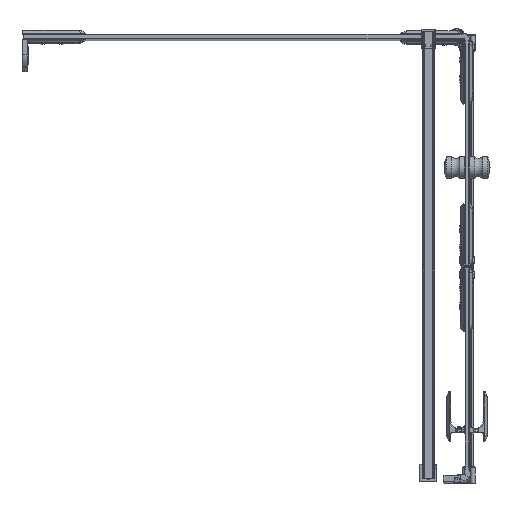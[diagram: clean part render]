
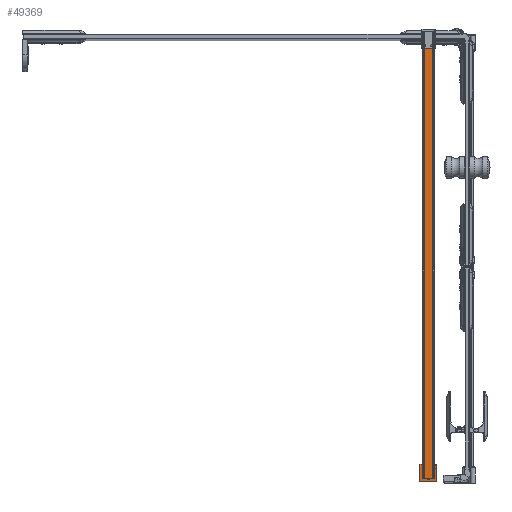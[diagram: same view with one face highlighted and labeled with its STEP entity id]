
A CAD part, top view. The second image highlights one B-rep face of the part: STEP entity #49369.
In plain terms, the highlighted planar face has unit normal (0, 0, 1).
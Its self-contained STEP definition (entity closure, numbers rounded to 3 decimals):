
#4265=LINE($,#111567,#8347);
#4997=LINE($,#113799,#9079);
#4998=LINE($,#113805,#9080);
#5002=LINE($,#113831,#9084);
#5010=LINE($,#113846,#9092);
#5011=LINE($,#113849,#9093);
#5012=LINE($,#113851,#9094);
#5016=LINE($,#113856,#9098);
#5017=LINE($,#113858,#9099);
#5018=LINE($,#113860,#9100);
#5027=LINE($,#113878,#9109);
#5028=LINE($,#113879,#9110);
#8347=VECTOR($,#64615,14.);
#9079=VECTOR($,#66539,3.25);
#9080=VECTOR($,#66544,3.25);
#9084=VECTOR($,#66572,30.);
#9092=VECTOR($,#66584,30.);
#9093=VECTOR($,#66587,4.75);
#9094=VECTOR($,#66588,4.75);
#9098=VECTOR($,#66594,30.);
#9099=VECTOR($,#66597,25.);
#9100=VECTOR($,#66600,25.);
#9109=VECTOR($,#66627,780.);
#9110=VECTOR($,#66628,780.);
#10901=PLANE($,#53800);
#13948=FACE_OUTER_BOUND($,#16992,.T.);
#16992=EDGE_LOOP($,(#43163,#43164,#43165,#43166,#43167,#43168,#43169,#43170,
#43171,#43172,#43173,#43174));
#22672=VERTEX_POINT($,#111565);
#22673=VERTEX_POINT($,#111566);
#23198=VERTEX_POINT($,#113791);
#23201=VERTEX_POINT($,#113797);
#23203=VERTEX_POINT($,#113802);
#23204=VERTEX_POINT($,#113804);
#23212=VERTEX_POINT($,#113827);
#23214=VERTEX_POINT($,#113830);
#23218=VERTEX_POINT($,#113842);
#23219=VERTEX_POINT($,#113844);
#23220=VERTEX_POINT($,#113848);
#23221=VERTEX_POINT($,#113850);
#28923=EDGE_CURVE($,#22672,#22673,#4265,.T.);
#29859=EDGE_CURVE($,#23198,#23201,#4997,.T.);
#29861=EDGE_CURVE($,#23204,#23203,#4998,.T.);
#29872=EDGE_CURVE($,#23214,#23212,#5002,.T.);
#29880=EDGE_CURVE($,#23219,#23218,#5010,.T.);
#29881=EDGE_CURVE($,#23219,#23220,#5011,.T.);
#29882=EDGE_CURVE($,#23221,#23214,#5012,.T.);
#29886=EDGE_CURVE($,#23218,#23212,#5016,.T.);
#29887=EDGE_CURVE($,#23204,#23220,#5017,.T.);
#29888=EDGE_CURVE($,#23201,#23221,#5018,.T.);
#29897=EDGE_CURVE($,#22672,#23198,#5027,.T.);
#29898=EDGE_CURVE($,#23203,#22673,#5028,.T.);
#43163=ORIENTED_EDGE($,*,*,#29897,.T.);
#43164=ORIENTED_EDGE($,*,*,#29859,.T.);
#43165=ORIENTED_EDGE($,*,*,#29888,.T.);
#43166=ORIENTED_EDGE($,*,*,#29882,.T.);
#43167=ORIENTED_EDGE($,*,*,#29872,.T.);
#43168=ORIENTED_EDGE($,*,*,#29886,.F.);
#43169=ORIENTED_EDGE($,*,*,#29880,.F.);
#43170=ORIENTED_EDGE($,*,*,#29881,.T.);
#43171=ORIENTED_EDGE($,*,*,#29887,.F.);
#43172=ORIENTED_EDGE($,*,*,#29861,.T.);
#43173=ORIENTED_EDGE($,*,*,#29898,.T.);
#43174=ORIENTED_EDGE($,*,*,#28923,.F.);
#49369=ADVANCED_FACE($,(#13948),#10901,.F.);
#53800=AXIS2_PLACEMENT_3D($,#113877,#66625,#66626);
#64615=DIRECTION($,(1.,0.,0.));
#66539=DIRECTION($,(-1.,0.,0.));
#66544=DIRECTION($,(-1.,0.,0.));
#66572=DIRECTION($,(0.,-1.,0.));
#66584=DIRECTION($,(0.,-1.,0.));
#66587=DIRECTION($,(-1.,0.,0.));
#66588=DIRECTION($,(-1.,0.,0.));
#66594=DIRECTION($,(-1.,0.,0.));
#66597=DIRECTION($,(0.,1.,0.));
#66600=DIRECTION($,(0.,1.,0.));
#66625=DIRECTION('center_axis',(0.,0.,
-1.));
#66626=DIRECTION('ref_axis',(0.,-1.,0.));
#66627=DIRECTION($,(0.,-1.,0.));
#66628=DIRECTION($,(0.,1.,0.));
#111565=CARTESIAN_POINT('',(1153.733,-43.044,1511.944));
#111566=CARTESIAN_POINT('',(1167.733,-43.044,1511.944));
#111567=CARTESIAN_POINT($,(1153.733,-43.044,1511.944));
#113791=CARTESIAN_POINT('',(1153.733,-823.044,1511.944));
#113797=CARTESIAN_POINT('',(1150.483,-823.044,1511.944));
#113799=CARTESIAN_POINT($,(1170.983,-823.044,1511.944));
#113802=CARTESIAN_POINT('',(1167.733,-823.044,1511.944));
#113804=CARTESIAN_POINT('',(1170.983,-823.044,1511.944));
#113805=CARTESIAN_POINT($,(1170.983,-823.044,1511.944));
#113827=CARTESIAN_POINT('',(1145.733,-828.044,1511.944));
#113830=CARTESIAN_POINT('',(1145.733,-798.044,1511.944));
#113831=CARTESIAN_POINT($,(1145.733,-798.044,1511.944));
#113842=CARTESIAN_POINT('',(1175.733,-828.044,1511.944));
#113844=CARTESIAN_POINT('',(1175.733,-798.044,1511.944));
#113846=CARTESIAN_POINT($,(1175.733,-798.044,1511.944));
#113848=CARTESIAN_POINT('',(1170.983,-798.044,1511.944));
#113849=CARTESIAN_POINT($,(1145.733,-798.044,1511.944));
#113850=CARTESIAN_POINT('',(1150.483,-798.044,1511.944));
#113851=CARTESIAN_POINT($,(1145.733,-798.044,1511.944));
#113856=CARTESIAN_POINT($,(1145.733,-828.044,1511.944));
#113858=CARTESIAN_POINT($,(1170.983,-823.044,1511.944));
#113860=CARTESIAN_POINT($,(1150.483,-823.044,1511.944));
#113877=CARTESIAN_POINT('Origin',(1167.733,-433.044,1511.944));
#113878=CARTESIAN_POINT($,(1153.733,-433.044,1511.944));
#113879=CARTESIAN_POINT($,(1167.733,-433.044,1511.944));
